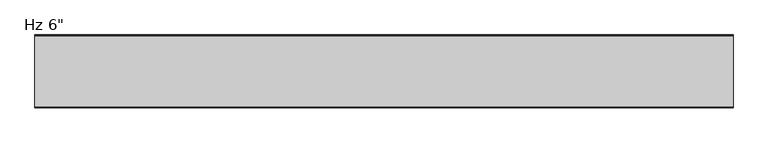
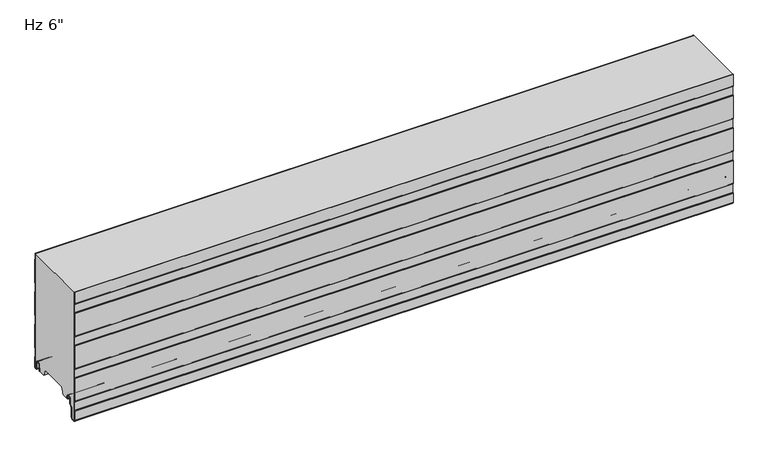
"""IFC4 building model written with IfcOpenShell, lengths in millimetres: plate geometry."""

from ifc_helpers import new_model, si_unit, point, frame, frame_2d, origin, place, context, project, spatial, polyline, circle_curve, trimmed, segment, composite_curve, outline, extrude, source, transform, mapped, element, save
from ifc_brep_helpers import plane_surface, cylinder_surface, revolved_surface, advanced_brep


def plate_b218fc5a(model_context):
    return source(origin(), model_context, "Body", "SolidModel", [
        extrude(outline(composite_curve([segment(trimmed(circle_curve(frame_2d((-2.3985037, -0.4487243)), 2.3999705), [point((-3.12e-05, -0.3639402))], [point((-2.3985037, -2.8486949))], False, "CARTESIAN"), True, "CONTINUOUS"), segment(polyline([(-2.3985037, -2.8486949), (-3.9516205, -2.8486949)]), True, "CONTINUOUS"), segment(trimmed(circle_curve(frame_2d((-3.9516205, 0.3613604)), 3.2100553), [point((-3.9516205, -2.8486949))], [point((-7.1616758, 0.3613604))], False, "CARTESIAN"), True, "CONTINUOUS"), segment(polyline([(-7.1616758, 0.3613604), (-7.1616758, 13.8905885)]), True, "CONTINUOUS"), segment(trimmed(circle_curve(frame_2d((-9.8816619, 13.8905885)), 2.7199861), [point((-7.1616758, 13.8905885))], [point((-9.8816619, 16.6105746))], True, "CARTESIAN"), True, "CONTINUOUS"), segment(polyline([(-9.8816619, 16.6105746), (-13.5282598, 16.6105746)]), True, "CONTINUOUS"), segment(trimmed(circle_curve(frame_2d((-13.5282598, 13.8905782)), 2.7199964), [point((-13.5282598, 16.6105746))], [point((-16.2482561, 13.8905782))], True, "CARTESIAN"), True, "CONTINUOUS"), segment(polyline([(-16.2482561, 13.8905782), (-16.2482561, 1.189897)]), True, "CONTINUOUS"), segment(trimmed(circle_curve(frame_2d((-17.7722572, 1.189897)), 1.524001), [point((-16.2482561, 1.189897))], [point((-19.2731052, 1.454537))], False, "CARTESIAN"), True, "CONTINUOUS"), segment(polyline([(-19.2731052, 1.454537), (-18.1704393, 7.7080661), (-17.2482561, 7.5454603), (-17.2482561, 13.8905782)]), True, "CONTINUOUS"), segment(trimmed(circle_curve(frame_2d((-13.5282598, 13.8905782)), 3.7199964), [point((-17.2482561, 13.8905782))], [point((-13.5282598, 17.6105746))], False, "CARTESIAN"), True, "CONTINUOUS"), segment(polyline([(-13.5282598, 17.6105746), (-9.8816619, 17.6105746)]), True, "CONTINUOUS"), segment(trimmed(circle_curve(frame_2d((-9.8816619, 13.8905885)), 3.7199861), [point((-9.8816619, 17.6105746))], [point((-6.1616758, 13.8905885))], False, "CARTESIAN"), True, "CONTINUOUS"), segment(polyline([(-6.1616758, 13.8905885), (-6.1616758, 0.3613604)]), True, "CONTINUOUS"), segment(trimmed(circle_curve(frame_2d((-3.9516205, 0.3613604)), 2.2100553), [point((-6.1616758, 0.3613604))], [point((-3.9516205, -1.8486949))], True, "CARTESIAN"), True, "CONTINUOUS"), segment(polyline([(-3.9516205, -1.8486949), (-2.3985037, -1.8486949)]), True, "CONTINUOUS"), segment(trimmed(circle_curve(frame_2d((-2.3985037, -0.4487243)), 1.3999705), [point((-2.3985037, -1.8486949))], [point((-1.0000312, -0.3839769))], True, "CARTESIAN"), True, "CONTINUOUS"), segment(polyline([(-1.0000312, -0.3839769), (-1.0000312, 22.2866086), (-2.2002516, 23.486829), (-2.2002516, 43.1222888), (-1.0000209, 44.3225195), (-1.0000209, 98.4864459), (-2.2002516, 99.6866766), (-2.2002516, 119.3221364), (-1.0000209, 120.5223671), (-1.0000209, 174.6698551), (-2.2002516, 175.8700858), (-2.2002516, 195.5055456), (-1.0000209, 196.7057763), (-1.0000209, 250.8532643), (-2.2002516, 252.0534951), (-2.2002516, 266.4), (-1.2002516, 266.4), (-1.2002516, 252.4677086), (-2.09e-05, 251.2674779), (-2.09e-05, 196.2915628), (-1.2002516, 195.091332), (-1.2002516, 176.2842994), (-2.09e-05, 175.0840687), (-2.09e-05, 120.1081535), (-1.2002516, 118.9079228), (-1.2002516, 100.1008902), (-2.09e-05, 98.9006594), (-2.09e-05, 43.9083059), (-1.2002516, 42.7080752), (-1.2002516, 23.9010426), (-3.12e-05, 22.7008222), (-3.12e-05, -0.3639402)]), True, "CONTINUOUS")], self_intersect=False)), frame((-730.0, 0.0, 0.0), z_axis=(1.0, 0.0, 0.0), x_axis=(0.0, 1.0, 0.0)), (0.0, 0.0, 1.0), 1460.0),
        extrude(outline(composite_curve([segment(trimmed(circle_curve(frame_2d((-124.105791, 0.8654988)), 1.2), [point((-122.905792, 0.8670134))], [point((-125.3042756, 0.8052116))], False, "CARTESIAN"), True, "CONTINUOUS"), segment(polyline([(-125.3042756, 0.8052116), (-125.3042756, 7.3245305)]), True, "CONTINUOUS"), segment(trimmed(circle_curve(frame_2d((-127.6542755, 7.3245305)), 2.3499999), [point((-125.3042756, 7.3245305))], [point((-127.6542755, 9.6745305))], True, "CARTESIAN"), True, "CONTINUOUS"), segment(polyline([(-127.6542755, 9.6745305), (-132.0542753, 9.6745305)]), True, "CONTINUOUS"), segment(trimmed(circle_curve(frame_2d((-132.0542753, 7.3245305)), 2.3499999), [point((-132.0542753, 9.6745305))], [point((-134.4042752, 7.3245305))], True, "CARTESIAN"), True, "CONTINUOUS"), segment(polyline([(-134.4042752, 7.3245305), (-134.4042752, -4.4863817)]), True, "CONTINUOUS"), segment(trimmed(circle_curve(frame_2d((-137.1042752, -4.4863817)), 2.7), [point((-134.4042752, -4.4863817))], [point((-135.1950869, -6.39557))], False, "CARTESIAN"), True, "CONTINUOUS"), segment(polyline([(-135.1950869, -6.39557), (-139.9356458, -11.1361289)]), True, "CONTINUOUS"), segment(trimmed(circle_curve(frame_2d((-138.804275, -12.2674998)), 1.6), [point((-139.9356458, -11.1361289))], [point((-140.404275, -12.2674998))], True, "CARTESIAN"), True, "CONTINUOUS"), segment(polyline([(-140.404275, -12.2674998), (-140.404275, -33.274257)]), True, "CONTINUOUS"), segment(trimmed(circle_curve(frame_2d((-144.104275, -33.274257)), 3.7), [point((-140.404275, -33.274257))], [point((-143.7815079, -36.960152))], False, "CARTESIAN"), True, "CONTINUOUS"), segment(polyline([(-143.7815079, -36.960152), (-148.5284964, -37.3758371)]), True, "CONTINUOUS"), segment(trimmed(circle_curve(frame_2d((-148.8391075, -33.8287598)), 3.5606512), [point((-148.5284964, -37.3758371))], [point((-152.3997587, -33.8287598))], False, "CARTESIAN"), True, "CONTINUOUS"), segment(polyline([(-152.3997587, -33.8287598), (-152.3997587, -12.0182355)]), True, "CONTINUOUS"), segment(trimmed(circle_curve(frame_2d((-150.9998926, -12.0182355)), 1.3998661), [point((-152.3997587, -12.0182355))], [point((-151.9325164, -10.9742825))], False, "CARTESIAN"), True, "CONTINUOUS"), segment(polyline([(-151.9325164, -10.9742825), (-151.1997902, -10.2415563), (-151.1997902, 8.6494291), (-151.9327558, 9.3823947)]), True, "CONTINUOUS"), segment(trimmed(circle_curve(frame_2d((-151.0000446, 10.4264455)), 1.3999972), [point((-151.9327558, 9.3823947))], [point((-152.4000209, 10.4340987))], False, "CARTESIAN"), True, "CONTINUOUS"), segment(polyline([(-152.4000209, 10.4340987), (-152.4000209, 64.1816121)]), True, "CONTINUOUS"), segment(trimmed(circle_curve(frame_2d((-151.0000237, 64.1816121)), 1.3999972), [point((-152.4000209, 64.1816121))], [point((-151.9327348, 65.2256628))], False, "CARTESIAN"), True, "CONTINUOUS"), segment(polyline([(-151.9327348, 65.2256628), (-151.1997902, 65.9586075), (-151.1997902, 84.8492767), (-151.9327558, 85.5822423)]), True, "CONTINUOUS"), segment(trimmed(circle_curve(frame_2d((-151.0000446, 86.6262931)), 1.3999972), [point((-151.9327558, 85.5822423))], [point((-152.4000209, 86.6339463))], False, "CARTESIAN"), True, "CONTINUOUS"), segment(polyline([(-152.4000209, 86.6339463), (-152.4000209, 140.3814597)]), True, "CONTINUOUS"), segment(trimmed(circle_curve(frame_2d((-151.0000237, 140.3814597)), 1.3999972), [point((-152.4000209, 140.3814597))], [point((-151.9327348, 141.4255104))], False, "CARTESIAN"), True, "CONTINUOUS"), segment(polyline([(-151.9327348, 141.4255104), (-151.1997902, 142.1584551), (-151.1997902, 161.0491243), (-151.9327558, 161.7820899)]), True, "CONTINUOUS"), segment(trimmed(circle_curve(frame_2d((-151.0000446, 162.8261407)), 1.3999972), [point((-151.9327558, 161.7820899))], [point((-152.4000209, 162.8337939))], False, "CARTESIAN"), True, "CONTINUOUS"), segment(polyline([(-152.4000209, 162.8337939), (-152.4000209, 216.5813073)]), True, "CONTINUOUS"), segment(trimmed(circle_curve(frame_2d((-151.0000237, 216.5813073)), 1.3999972), [point((-152.4000209, 216.5813073))], [point((-151.9327348, 217.625358))], False, "CARTESIAN"), True, "CONTINUOUS"), segment(polyline([(-151.9327348, 217.625358), (-151.1997902, 218.3583027), (-151.1997902, 237.2489719), (-151.9327558, 237.9819375)]), True, "CONTINUOUS"), segment(trimmed(circle_curve(frame_2d((-151.0000446, 239.0259883)), 1.3999972), [point((-151.9327558, 237.9819375))], [point((-152.4000209, 239.0336415))], False, "CARTESIAN"), True, "CONTINUOUS"), segment(polyline([(-152.4000209, 239.0336415), (-152.4000209, 266.4), (-151.4000209, 266.4), (-151.4000209, 238.8638905), (-150.1997902, 237.6636597), (-150.1997902, 217.9442472), (-151.4000209, 216.7440165), (-151.4000209, 162.6638848), (-150.1997902, 161.4636541), (-150.1997902, 141.7442416), (-151.4000209, 140.5440108), (-151.4000209, 86.4638791), (-150.1997902, 85.2636484), (-150.1997902, 65.5442359), (-151.4000209, 64.3440052), (-151.4000209, 10.2638734), (-150.1997902, 9.0636427), (-150.1997902, -10.6557698), (-151.3997587, -11.8557384), (-151.3997587, -33.8287598)]), True, "CONTINUOUS"), segment(trimmed(circle_curve(frame_2d((-148.8391075, -33.8287598)), 2.5606512), [point((-151.3997587, -33.8287598))], [point((-148.6157308, -36.3796493))], True, "CARTESIAN"), True, "CONTINUOUS"), segment(polyline([(-148.6157308, -36.3796493), (-143.8687422, -35.9639641)]), True, "CONTINUOUS"), segment(trimmed(circle_curve(frame_2d((-144.104275, -33.274257)), 2.7), [point((-143.8687422, -35.9639641))], [point((-141.404275, -33.274257))], True, "CARTESIAN"), True, "CONTINUOUS"), segment(polyline([(-141.404275, -33.274257), (-141.404275, -12.2674998)]), True, "CONTINUOUS"), segment(trimmed(circle_curve(frame_2d((-138.804275, -12.2674998)), 2.6), [point((-141.404275, -12.2674998))], [point((-140.6427526, -10.4290221))], False, "CARTESIAN"), True, "CONTINUOUS"), segment(polyline([(-140.6427526, -10.4290221), (-135.9021937, -5.6884632)]), True, "CONTINUOUS"), segment(trimmed(circle_curve(frame_2d((-137.1042752, -4.4863817)), 1.7), [point((-135.9021937, -5.6884632))], [point((-135.4042752, -4.4863817))], True, "CARTESIAN"), True, "CONTINUOUS"), segment(polyline([(-135.4042752, -4.4863817), (-135.4042752, 7.3245305)]), True, "CONTINUOUS"), segment(trimmed(circle_curve(frame_2d((-132.0542753, 7.3245305)), 3.3499999), [point((-135.4042752, 7.3245305))], [point((-132.0542753, 10.6745305))], False, "CARTESIAN"), True, "CONTINUOUS"), segment(polyline([(-132.0542753, 10.6745305), (-127.6542755, 10.6745305)]), True, "CONTINUOUS"), segment(trimmed(circle_curve(frame_2d((-127.6542755, 7.3245305)), 3.3499999), [point((-127.6542755, 10.6745305))], [point((-124.3042756, 7.3245305))], False, "CARTESIAN"), True, "CONTINUOUS"), segment(polyline([(-124.3042756, 7.3245305), (-124.3042756, 4.6254142), (-122.905792, 4.6254142), (-122.905792, 0.8670134)]), True, "CONTINUOUS")], self_intersect=False)), frame((-730.0, 0.0, 0.0), z_axis=(1.0, 0.0, 0.0), x_axis=(0.0, 1.0, 0.0)), (0.0, 0.0, 1.0), 1460.0),
        advanced_brep(
        [(-730.0, -124.3042756, 7.3245305), (-730.0, -127.6542755, 10.6745305), (-730.0, -132.0542753, 10.6745305), (-730.0, -135.4042752, 7.3245305), (-730.0, -135.4042752, -4.4863817), (-730.0, -135.9021937, -5.6884632), (-730.0, -140.6427526, -10.4290221), (-730.0, -141.404275, -12.2674998), (-730.0, -141.404275, -33.274257), (-730.0, -143.8687422, -35.9639641), (-730.0, -148.6157308, -36.3796493), (-730.0, -151.3997587, -33.8287598), (-730.0, -151.3997587, -11.8557384), (-730.0, -150.1997902, -10.6557698), (-730.0, -150.1997902, 9.0636427), (-730.0, -151.4000209, 10.2638734), (-730.0, -151.4000209, 64.3440052), (-730.0, -150.1997902, 65.5442359), (-730.0, -150.1997902, 85.2636484), (-730.0, -151.4000209, 86.4638791), (-730.0, -151.4000209, 140.5440108), (-730.0, -150.1997902, 141.7442416), (-730.0, -150.1997902, 161.4636541), (-730.0, -151.4000209, 162.6638848), (-730.0, -151.4000209, 216.7440165), (-730.0, -150.1997902, 217.9442472), (-730.0, -150.1997902, 237.6636597), (-730.0, -151.4000209, 238.8638905), (-730.0, -151.4000209, 266.4), (-730.0, -2.2002516, 266.4), (-730.0, -2.2002516, 252.0534951), (-730.0, -1.0000209, 250.8532643), (-730.0, -1.0000209, 196.7057763), (-730.0, -2.2002516, 195.5055456), (-730.0, -2.2002516, 175.8700858), (-730.0, -1.0000209, 174.6698551), (-730.0, -1.0000209, 120.5223671), (-730.0, -2.2002516, 119.3221364), (-730.0, -2.2002516, 99.6866766), (-730.0, -1.0000209, 98.4864459), (-730.0, -1.0000209, 44.3225195), (-730.0, -2.2002516, 43.1222888), (-730.0, -2.2002516, 23.486829), (-730.0, -1.0000312, 22.2866086), (-730.0, -1.0000312, -0.3839769), (-730.0, -2.3985037, -1.8486949), (-730.0, -3.9516205, -1.8486949), (-730.0, -6.1616758, 0.3613604), (-730.0, -6.1616758, 13.8905885), (-730.0, -9.8816619, 17.6105746), (-730.0, -13.5282598, 17.6105746), (-730.0, -17.2482561, 13.8905782), (-730.0, -17.2482561, 7.5454603), (-730.0, -18.1704393, 7.7080661), (-730.0, -19.2731052, 1.454537), (-730.0, -18.724478, 0.0), (-730.0, -33.5050787, 0.0), (-730.0, -39.1301227, 14.9979533), (-730.0, -102.5686274, 14.9979533), (-730.0, -108.1925929, 0.0), (-730.0, -123.27458, 0.0), (-730.0, -122.905792, 0.8670134), (-730.0, -122.905792, 4.6254142), (-730.0, -124.3042756, 4.6254142), (730.0, -124.3042756, 7.3245305), (730.0, -124.3042756, 4.6254142), (730.0, -122.905792, 4.6254142), (730.0, -122.905792, 0.8670134), (730.0, -123.27458, 0.0), (730.0, -108.1925929, 0.0), (730.0, -102.5683653, 14.9979533), (730.0, -39.1301227, 14.9979533), (730.0, -33.5050787, 0.0), (730.0, -18.724478, 0.0), (730.0, -19.2731052, 1.454537), (730.0, -18.1704393, 7.7080661), (730.0, -17.2482561, 7.5454603), (730.0, -17.2482561, 13.8905782), (730.0, -13.5282598, 17.6105746), (730.0, -9.8816619, 17.6105746), (730.0, -6.1616758, 13.8905885), (730.0, -6.1616758, 0.3613604), (730.0, -3.9516205, -1.8486949), (730.0, -2.3985037, -1.8486949), (730.0, -1.0000312, -0.3839769), (730.0, -1.0000312, 22.2866086), (730.0, -2.2002516, 23.486829), (730.0, -2.2002516, 43.1222888), (730.0, -1.0000209, 44.3225195), (730.0, -1.0000209, 98.4864459), (730.0, -2.2002516, 99.6866766), (730.0, -2.2002516, 119.3221364), (730.0, -1.0000209, 120.5223671), (730.0, -1.0000209, 174.6698551), (730.0, -2.2002516, 175.8700858), (730.0, -2.2002516, 195.5055456), (730.0, -1.0000209, 196.7057763), (730.0, -1.0000209, 250.8532643), (730.0, -2.2002516, 252.0534951), (730.0, -2.2002516, 266.4), (730.0, -151.4000209, 266.4), (730.0, -151.4000209, 238.8638905), (730.0, -150.1997902, 237.6636597), (730.0, -150.1997902, 217.9442472), (730.0, -151.4000209, 216.7440165), (730.0, -151.4000209, 162.6638848), (730.0, -150.1997902, 161.4636541), (730.0, -150.1997902, 141.7442416), (730.0, -151.4000209, 140.5440108), (730.0, -151.4000209, 86.4638791), (730.0, -150.1997902, 85.2636484), (730.0, -150.1997902, 65.5442359), (730.0, -151.4000209, 64.3440052), (730.0, -151.4000209, 10.2638734), (730.0, -150.1997902, 9.0636427), (730.0, -150.1997902, -10.6557698), (730.0, -151.3997587, -11.8557384), (730.0, -151.3997587, -33.8287598), (730.0, -148.6157308, -36.3796493), (730.0, -143.8687422, -35.9639641), (730.0, -141.404275, -33.274257), (730.0, -141.404275, -12.2674998), (730.0, -140.6427526, -10.4290221), (730.0, -135.9021937, -5.6884632), (730.0, -135.4042752, -4.4863817), (730.0, -135.4042752, 7.3245305), (730.0, -132.0542753, 10.6745305), (730.0, -127.6542755, 10.6745305)],
        [
            (0, 1, circle_curve(frame((-730.0, -127.6542755, 7.3245305), z_axis=(1.0, 0.0, 0.0), x_axis=(0.0, 0.0, -1.0)), 3.3499999)),
            (1, 2),
            (2, 3, circle_curve(frame((-730.0, -132.0542753, 7.3245305), z_axis=(1.0, 0.0, 0.0), x_axis=(0.0, 0.0, -1.0)), 3.3499999)),
            (3, 4),
            (4, 5, circle_curve(frame((-730.0, -137.1042752, -4.4863817), z_axis=(-1.0, 0.0, 0.0), x_axis=(0.0, 0.0, -1.0)), 1.7)),
            (5, 6),
            (6, 7, circle_curve(frame((-730.0, -138.804275, -12.2674998), z_axis=(1.0, 0.0, 0.0), x_axis=(0.0, 0.0, -1.0)), 2.6)),
            (7, 8),
            (8, 9, circle_curve(frame((-730.0, -144.104275, -33.274257), z_axis=(-1.0, 0.0, 0.0), x_axis=(0.0, 0.0, -1.0)), 2.7)),
            (9, 10),
            (10, 11, circle_curve(frame((-730.0, -148.8391075, -33.8287598), z_axis=(-1.0, 0.0, 0.0), x_axis=(0.0, 0.0, -1.0)), 2.5606512)),
            (11, 12),
            (12, 13),
            (13, 14),
            (14, 15),
            (15, 16),
            (16, 17),
            (17, 18),
            (18, 19),
            (19, 20),
            (20, 21),
            (21, 22),
            (22, 23),
            (23, 24),
            (24, 25),
            (25, 26),
            (26, 27),
            (27, 28),
            (28, 29),
            (29, 30),
            (30, 31),
            (31, 32),
            (32, 33),
            (33, 34),
            (34, 35),
            (35, 36),
            (36, 37),
            (37, 38),
            (38, 39),
            (39, 40),
            (40, 41),
            (41, 42),
            (42, 43),
            (43, 44),
            (44, 45, circle_curve(frame((-730.0, -2.3985037, -0.4487243), z_axis=(-1.0, 0.0, 0.0), x_axis=(0.0, 0.0, -1.0)), 1.3999705)),
            (45, 46),
            (46, 47, circle_curve(frame((-730.0, -3.9516205, 0.3613604), z_axis=(-1.0, 0.0, 0.0), x_axis=(0.0, 0.0, -1.0)), 2.2100553)),
            (47, 48),
            (48, 49, circle_curve(frame((-730.0, -9.8816619, 13.8905885), z_axis=(1.0, 0.0, 0.0), x_axis=(0.0, 0.0, -1.0)), 3.7199861)),
            (49, 50),
            (50, 51, circle_curve(frame((-730.0, -13.5282598, 13.8905782), z_axis=(1.0, 0.0, 0.0), x_axis=(0.0, 0.0, -1.0)), 3.7199964)),
            (51, 52),
            (52, 53),
            (53, 54),
            (54, 55, circle_curve(frame((-730.0, -17.7722572, 1.189897), z_axis=(1.0, 0.0, 0.0), x_axis=(0.0, 0.0, -1.0)), 1.524001)),
            (55, 56),
            (56, 57),
            (57, 58),
            (58, 59),
            (59, 60),
            (60, 61, circle_curve(frame((-730.0, -124.105791, 0.8654988), z_axis=(1.0, 0.0, 0.0), x_axis=(0.0, 0.0, -1.0)), 1.2)),
            (61, 62),
            (62, 63),
            (63, 0),
            (64, 65),
            (65, 66),
            (66, 67),
            (67, 68, circle_curve(frame((730.0, -124.105791, 0.8654988), z_axis=(-1.0, 0.0, 0.0), x_axis=(0.0, 0.0, -1.0)), 1.2)),
            (68, 69),
            (69, 70),
            (70, 71),
            (71, 72),
            (72, 73),
            (73, 74, circle_curve(frame((730.0, -17.7722572, 1.189897), z_axis=(-1.0, 0.0, 0.0), x_axis=(0.0, 0.0, -1.0)), 1.524001)),
            (74, 75),
            (75, 76),
            (76, 77),
            (77, 78, circle_curve(frame((730.0, -13.5282598, 13.8905782), z_axis=(-1.0, 0.0, 0.0), x_axis=(0.0, 0.0, -1.0)), 3.7199964)),
            (78, 79),
            (79, 80, circle_curve(frame((730.0, -9.8816619, 13.8905885), z_axis=(-1.0, 0.0, 0.0), x_axis=(0.0, 0.0, -1.0)), 3.7199861)),
            (80, 81),
            (81, 82, circle_curve(frame((730.0, -3.9516205, 0.3613604), z_axis=(1.0, 0.0, 0.0), x_axis=(0.0, 0.0, -1.0)), 2.2100553)),
            (82, 83),
            (83, 84, circle_curve(frame((730.0, -2.3985037, -0.4487243), z_axis=(1.0, 0.0, 0.0), x_axis=(0.0, 0.0, -1.0)), 1.3999705)),
            (84, 85),
            (85, 86),
            (86, 87),
            (87, 88),
            (88, 89),
            (89, 90),
            (90, 91),
            (91, 92),
            (92, 93),
            (93, 94),
            (94, 95),
            (95, 96),
            (96, 97),
            (97, 98),
            (98, 99),
            (99, 100),
            (100, 101),
            (101, 102),
            (102, 103),
            (103, 104),
            (104, 105),
            (105, 106),
            (106, 107),
            (107, 108),
            (108, 109),
            (109, 110),
            (110, 111),
            (111, 112),
            (112, 113),
            (113, 114),
            (114, 115),
            (115, 116),
            (116, 117),
            (117, 118, circle_curve(frame((730.0, -148.8391075, -33.8287598), z_axis=(1.0, 0.0, 0.0), x_axis=(0.0, 0.0, -1.0)), 2.5606512)),
            (118, 119),
            (119, 120, circle_curve(frame((730.0, -144.104275, -33.274257), z_axis=(1.0, 0.0, 0.0), x_axis=(0.0, 0.0, -1.0)), 2.7)),
            (120, 121),
            (121, 122, circle_curve(frame((730.0, -138.804275, -12.2674998), z_axis=(-1.0, 0.0, 0.0), x_axis=(0.0, 0.0, -1.0)), 2.6)),
            (122, 123),
            (123, 124, circle_curve(frame((730.0, -137.1042752, -4.4863817), z_axis=(1.0, 0.0, 0.0), x_axis=(0.0, 0.0, -1.0)), 1.7)),
            (124, 125),
            (125, 126, circle_curve(frame((730.0, -132.0542753, 7.3245305), z_axis=(-1.0, 0.0, 0.0), x_axis=(0.0, 0.0, -1.0)), 3.3499999)),
            (126, 127),
            (127, 64, circle_curve(frame((730.0, -127.6542755, 7.3245305), z_axis=(-1.0, 0.0, 0.0), x_axis=(0.0, 0.0, -1.0)), 3.3499999)),
            (48, 80),
            (79, 49),
            (47, 81),
            (46, 82),
            (45, 83),
            (44, 84),
            (43, 85),
            (42, 86),
            (41, 87),
            (40, 88),
            (39, 89),
            (38, 90),
            (37, 91),
            (36, 92),
            (35, 93),
            (34, 94),
            (33, 95),
            (32, 96),
            (31, 97),
            (30, 98),
            (29, 99),
            (56, 72),
            (71, 57),
            (55, 73),
            (54, 74),
            (53, 75),
            (52, 76),
            (51, 77),
            (50, 78),
            (70, 58),
            (0, 64),
            (127, 1),
            (63, 65),
            (62, 66),
            (61, 67),
            (60, 68),
            (10, 118),
            (117, 11),
            (9, 119),
            (8, 120),
            (7, 121),
            (6, 122),
            (5, 123),
            (4, 124),
            (3, 125),
            (2, 126),
            (59, 69),
            (116, 12),
            (13, 115),
            (114, 14),
            (113, 15),
            (112, 16),
            (17, 111),
            (110, 18),
            (109, 19),
            (108, 20),
            (21, 107),
            (106, 22),
            (105, 23),
            (104, 24),
            (25, 103),
            (102, 26),
            (101, 27),
            (100, 28),
        ],
        [
            plane_surface(frame((-730.0, -151.4000209, 532.8637656), z_axis=(-1.0, 0.0, 0.0), x_axis=(0.0, -1.0, 0.0))),
            plane_surface(frame((730.0, -151.4000209, 532.8637656), z_axis=(1.0, 0.0, 0.0), x_axis=(0.0, -1.0, 0.0))),
            revolved_surface(polyline([(730.0, -9.8816619, 10.1706024), (-730.0, -9.8816619, 10.1706024)]), (-730.0, -9.8816619, 13.8905885), (1.0, 0.0, 0.0)),
            plane_surface(frame((-730.0, -6.1616758, 13.8905885), z_axis=(0.0, -1.0, 0.0), x_axis=(1.0, 0.0, 0.0))),
            cylinder_surface(frame((-730.0, -3.9516205, 0.3613604), z_axis=(-1.0, 0.0, 0.0), x_axis=(0.0, 0.0, -1.0)), 2.2100553),
            plane_surface(frame((-730.0, -3.9516205, -1.8486949), z_axis=(0.0, 0.0, -1.0), x_axis=(1.0, 0.0, 0.0))),
            cylinder_surface(frame((-730.0, -2.3985037, -0.4487243), z_axis=(-1.0, 0.0, 0.0), x_axis=(0.0, 0.0, -1.0)), 1.3999705),
            plane_surface(frame((-730.0, -1.0000312, -0.3839769), z_axis=(0.0, 1.0, 0.0), x_axis=(1.0, 0.0, 0.0))),
            plane_surface(frame((-730.0, -1.0000312, 22.2866086), z_axis=(0.0, 0.7071067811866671, 0.7071067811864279), x_axis=(1.0, 0.0, 0.0))),
            plane_surface(frame((-730.0, -2.2002516, 33.3045589), z_axis=(0.0, 1.0, 0.0), x_axis=(1.0, 0.0, 0.0))),
            plane_surface(frame((-730.0, -2.2002516, 43.1222888), z_axis=(0.0, 0.7071067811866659, -0.7071067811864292), x_axis=(1.0, 0.0, 0.0))),
            plane_surface(frame((-730.0, -1.0000209, 44.3225195), z_axis=(0.0, 1.0, 0.0), x_axis=(1.0, 0.0, 0.0))),
            plane_surface(frame((-730.0, -1.0000209, 98.4864459), z_axis=(0.0, 0.7071067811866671, 0.7071067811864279), x_axis=(1.0, 0.0, 0.0))),
            plane_surface(frame((-730.0, -2.2002516, 109.5044065), z_axis=(0.0, 1.0, 0.0), x_axis=(1.0, 0.0, 0.0))),
            plane_surface(frame((-730.0, -2.2002516, 119.3221364), z_axis=(0.0, 0.7071067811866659, -0.7071067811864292), x_axis=(1.0, 0.0, 0.0))),
            plane_surface(frame((-730.0, -1.0000209, 120.5223671), z_axis=(0.0, 1.0, 0.0), x_axis=(1.0, 0.0, 0.0))),
            plane_surface(frame((-730.0, -1.0000209, 174.6698551), z_axis=(0.0, 0.7071067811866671, 0.7071067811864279), x_axis=(1.0, 0.0, 0.0))),
            plane_surface(frame((-730.0, -2.2002516, 185.6878157), z_axis=(0.0, 1.0, 0.0), x_axis=(1.0, 0.0, 0.0))),
            plane_surface(frame((-730.0, -2.2002516, 195.5055456), z_axis=(0.0, 0.7071067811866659, -0.7071067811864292), x_axis=(1.0, 0.0, 0.0))),
            plane_surface(frame((-730.0, -1.0000209, 196.7057763), z_axis=(0.0, 1.0, 0.0), x_axis=(1.0, 0.0, 0.0))),
            plane_surface(frame((-730.0, -1.0000209, 250.8532643), z_axis=(0.0, 0.7071067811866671, 0.7071067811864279), x_axis=(1.0, 0.0, 0.0))),
            plane_surface(frame((-730.0, -2.2002516, 261.8712249), z_axis=(0.0, 1.0, 0.0), x_axis=(1.0, 0.0, 0.0))),
            plane_surface(frame((-730.0, -39.1301227, 14.9979533), z_axis=(0.0, -0.9363125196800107, -0.35116785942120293), x_axis=(1.0, 0.0, 0.0))),
            plane_surface(frame((-730.0, -33.5050787, 0.0), z_axis=(0.0, 0.0, -1.0), x_axis=(1.0, 0.0, 0.0))),
            revolved_surface(polyline([(730.0, -17.7722572, -0.33410399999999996), (-730.0, -17.7722572, -0.33410399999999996)]), (-730.0, -17.7722572, 1.189897), (1.0, 0.0, 0.0)),
            plane_surface(frame((-730.0, -19.2731052, 1.454537), z_axis=(0.0, 0.9848077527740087, -0.1736481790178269), x_axis=(1.0, 0.0, 0.0))),
            plane_surface(frame((-730.0, -18.1704393, 7.7080661), z_axis=(0.0, -0.17364817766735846, -0.9848077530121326), x_axis=(1.0, 0.0, 0.0))),
            plane_surface(frame((-730.0, -17.2482561, 7.5454603), z_axis=(0.0, 1.0, 0.0), x_axis=(1.0, 0.0, 0.0))),
            revolved_surface(polyline([(730.0, -13.5282598, 10.1705818), (-730.0, -13.5282598, 10.1705818)]), (-730.0, -13.5282598, 13.8905782), (1.0, 0.0, 0.0)),
            plane_surface(frame((-730.0, -13.5282598, 17.6105746), z_axis=(0.0, 0.0, -1.0), x_axis=(1.0, 0.0, 0.0))),
            plane_surface(frame((730.0, -39.1301227, 14.9979533), z_axis=(0.0, 0.0, -1.0), x_axis=(-1.0, 0.0, 0.0))),
            revolved_surface(polyline([(730.0, -127.6542755, 3.9745306), (-730.0, -127.6542755, 3.9745306)]), (-730.0, -127.6542755, 7.3245305), (1.0, 0.0, 0.0)),
            plane_surface(frame((-730.0, -124.3042756, 7.3245305), z_axis=(0.0, -1.0, 0.0), x_axis=(1.0, 0.0, 0.0))),
            plane_surface(frame((-730.0, -124.3042756, 4.6254142), z_axis=(0.0, 0.0, -1.0), x_axis=(1.0, 0.0, 0.0))),
            plane_surface(frame((-730.0, -122.905792, 4.6254142), z_axis=(0.0, -1.0, 0.0), x_axis=(1.0, 0.0, 0.0))),
            revolved_surface(polyline([(730.0, -124.105791, -0.33450119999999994), (-730.0, -124.105791, -0.33450119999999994)]), (-730.0, -124.105791, 0.8654988), (1.0, 0.0, 0.0)),
            cylinder_surface(frame((-730.0, -148.8391075, -33.8287598), z_axis=(-1.0, 0.0, 0.0), x_axis=(0.0, 0.0, -1.0)), 2.5606512),
            plane_surface(frame((-730.0, -148.6157308, -36.3796493), z_axis=(0.0, 0.08723436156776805, -0.9961878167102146), x_axis=(1.0, 0.0, 0.0))),
            cylinder_surface(frame((-730.0, -144.104275, -33.274257), z_axis=(-1.0, 0.0, 0.0), x_axis=(0.0, 0.0, -1.0)), 2.7),
            plane_surface(frame((-730.0, -141.404275, -33.274257), z_axis=(0.0, 1.0, 0.0), x_axis=(1.0, 0.0, 0.0))),
            revolved_surface(polyline([(730.0, -138.804275, -14.8674998), (-730.0, -138.804275, -14.8674998)]), (-730.0, -138.804275, -12.2674998), (1.0, 0.0, 0.0)),
            plane_surface(frame((-730.0, -140.6427526, -10.4290221), z_axis=(0.0, 0.7071067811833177, -0.7071067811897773), x_axis=(1.0, 0.0, 0.0))),
            cylinder_surface(frame((-730.0, -137.1042752, -4.4863817), z_axis=(-1.0, 0.0, 0.0), x_axis=(0.0, 0.0, -1.0)), 1.7),
            plane_surface(frame((-730.0, -135.4042752, -4.4863817), z_axis=(0.0, 1.0, 0.0), x_axis=(1.0, 0.0, 0.0))),
            revolved_surface(polyline([(730.0, -132.0542753, 3.9745306), (-730.0, -132.0542753, 3.9745306)]), (-730.0, -132.0542753, 7.3245305), (1.0, 0.0, 0.0)),
            plane_surface(frame((-730.0, -132.0542753, 10.6745305), z_axis=(0.0, 0.0, -1.0), x_axis=(1.0, 0.0, 0.0))),
            plane_surface(frame((-730.0, -123.27458, 0.0), z_axis=(0.0, 0.0, -1.0), x_axis=(1.0, 0.0, 0.0))),
            plane_surface(frame((-730.0, -108.1925929, 0.0), z_axis=(0.0, 0.9363292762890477, -0.3511231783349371), x_axis=(1.0, 0.0, 0.0))),
            plane_surface(frame((-730.0, -151.3997587, -11.8557384), z_axis=(0.0, -1.0, 0.0), x_axis=(1.0, 0.0, 0.0))),
            plane_surface(frame((-730.0, -150.1997902, 9.0636427), z_axis=(0.0, -1.0, 0.0), x_axis=(1.0, 0.0, 0.0))),
            plane_surface(frame((-730.0, -150.1997902, -10.6557698), z_axis=(0.0, -0.7071067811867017, 0.7071067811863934), x_axis=(1.0, 0.0, 0.0))),
            plane_surface(frame((-730.0, -151.4000209, 10.2638734), z_axis=(0.0, -0.7071067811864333, -0.7071067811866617), x_axis=(1.0, 0.0, 0.0))),
            plane_surface(frame((-730.0, -151.4000209, 64.3440052), z_axis=(0.0, -1.0, 0.0), x_axis=(1.0, 0.0, 0.0))),
            plane_surface(frame((-730.0, -150.1997902, 85.2636484), z_axis=(0.0, -1.0, 0.0), x_axis=(1.0, 0.0, 0.0))),
            plane_surface(frame((-730.0, -150.1997902, 65.5442359), z_axis=(0.0, -0.7071067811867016, 0.7071067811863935), x_axis=(1.0, 0.0, 0.0))),
            plane_surface(frame((-730.0, -151.4000209, 86.4638791), z_axis=(0.0, -0.7071067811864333, -0.7071067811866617), x_axis=(1.0, 0.0, 0.0))),
            plane_surface(frame((-730.0, -151.4000209, 140.5440108), z_axis=(0.0, -1.0, 0.0), x_axis=(1.0, 0.0, 0.0))),
            plane_surface(frame((-730.0, -150.1997902, 161.4636541), z_axis=(0.0, -1.0, 0.0), x_axis=(1.0, 0.0, 0.0))),
            plane_surface(frame((-730.0, -150.1997902, 141.7442416), z_axis=(0.0, -0.7071067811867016, 0.7071067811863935), x_axis=(1.0, 0.0, 0.0))),
            plane_surface(frame((-730.0, -151.4000209, 162.6638848), z_axis=(0.0, -0.7071067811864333, -0.7071067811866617), x_axis=(1.0, 0.0, 0.0))),
            plane_surface(frame((-730.0, -151.4000209, 216.7440165), z_axis=(0.0, -1.0, 0.0), x_axis=(1.0, 0.0, 0.0))),
            plane_surface(frame((-730.0, -150.1997902, 237.6636597), z_axis=(0.0, -1.0, 0.0), x_axis=(1.0, 0.0, 0.0))),
            plane_surface(frame((-730.0, -150.1997902, 217.9442472), z_axis=(0.0, -0.7071067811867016, 0.7071067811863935), x_axis=(1.0, 0.0, 0.0))),
            plane_surface(frame((-730.0, -151.4000209, 238.8638905), z_axis=(0.0, -0.7071067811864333, -0.7071067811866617), x_axis=(1.0, 0.0, 0.0))),
            plane_surface(frame((-730.0, -151.4000209, 292.9440222), z_axis=(0.0, -1.0, 0.0), x_axis=(1.0, 0.0, 0.0))),
            plane_surface(frame((730.0, 11.9999791, 266.4), z_axis=(0.0, 0.0, 1.0), x_axis=(-1.0, 0.0, 0.0))),
        ],
        [
            (0, [[1, 2, 3, 4, 5, 6, 7, 8, 9, 10, 11, 12, 13, 14, 15, 16, 17, 18, 19, 20, 21, 22, 23, 24, 25, 26, 27, 28, 29, 30, 31, 32, 33, 34, 35, 36, 37, 38, 39, 40, 41, 42, 43, 44, 45, 46, 47, 48, 49, 50, 51, 52, 53, 54, 55, 56, 57, 58, 59, 60, 61, 62, 63, 64]]),
            (1, [[65, 66, 67, 68, 69, 70, 71, 72, 73, 74, 75, 76, 77, 78, 79, 80, 81, 82, 83, 84, 85, 86, 87, 88, 89, 90, 91, 92, 93, 94, 95, 96, 97, 98, 99, 100, 101, 102, 103, 104, 105, 106, 107, 108, 109, 110, 111, 112, 113, 114, 115, 116, 117, 118, 119, 120, 121, 122, 123, 124, 125, 126, 127, 128]]),
            (2, [[129, -80, 130, -49]]),
            (3, [[131, -81, -129, -48]]),
            (4, [[132, -82, -131, -47]]),
            (5, [[133, -83, -132, -46]]),
            (6, [[134, -84, -133, -45]]),
            (7, [[135, -85, -134, -44]]),
            (8, [[136, -86, -135, -43]]),
            (9, [[137, -87, -136, -42]]),
            (10, [[138, -88, -137, -41]]),
            (11, [[139, -89, -138, -40]]),
            (12, [[140, -90, -139, -39]]),
            (13, [[141, -91, -140, -38]]),
            (14, [[142, -92, -141, -37]]),
            (15, [[143, -93, -142, -36]]),
            (16, [[144, -94, -143, -35]]),
            (17, [[145, -95, -144, -34]]),
            (18, [[146, -96, -145, -33]]),
            (19, [[147, -97, -146, -32]]),
            (20, [[148, -98, -147, -31]]),
            (21, [[-30, 149, -99, -148]]),
            (22, [[150, -72, 151, -57]]),
            (23, [[152, -73, -150, -56]]),
            (24, [[153, -74, -152, -55]]),
            (25, [[154, -75, -153, -54]]),
            (26, [[155, -76, -154, -53]]),
            (27, [[156, -77, -155, -52]]),
            (28, [[157, -78, -156, -51]]),
            (29, [[-130, -79, -157, -50]]),
            (30, [[158, -58, -151, -71]]),
            (31, [[159, -128, 160, -1]]),
            (32, [[161, -65, -159, -64]]),
            (33, [[162, -66, -161, -63]]),
            (34, [[163, -67, -162, -62]]),
            (35, [[164, -68, -163, -61]]),
            (36, [[165, -118, 166, -11]]),
            (37, [[167, -119, -165, -10]]),
            (38, [[168, -120, -167, -9]]),
            (39, [[169, -121, -168, -8]]),
            (40, [[170, -122, -169, -7]]),
            (41, [[171, -123, -170, -6]]),
            (42, [[172, -124, -171, -5]]),
            (43, [[173, -125, -172, -4]]),
            (44, [[174, -126, -173, -3]]),
            (45, [[-160, -127, -174, -2]]),
            (46, [[175, -69, -164, -60]]),
            (47, [[-158, -70, -175, -59]]),
            (48, [[-166, -117, 176, -12]]),
            (49, [[177, -115, 178, -14]]),
            (50, [[-176, -116, -177, -13]]),
            (51, [[-178, -114, 179, -15]]),
            (52, [[-179, -113, 180, -16]]),
            (53, [[181, -111, 182, -18]]),
            (54, [[-180, -112, -181, -17]]),
            (55, [[-182, -110, 183, -19]]),
            (56, [[-183, -109, 184, -20]]),
            (57, [[185, -107, 186, -22]]),
            (58, [[-184, -108, -185, -21]]),
            (59, [[-186, -106, 187, -23]]),
            (60, [[-187, -105, 188, -24]]),
            (61, [[189, -103, 190, -26]]),
            (62, [[-188, -104, -189, -25]]),
            (63, [[-190, -102, 191, -27]]),
            (64, [[-101, 192, -28, -191]]),
            (65, [[-192, -100, -149, -29]]),
        ],
    ),
    ])


if __name__ == "__main__":
    model = new_model("IFC4")
    model_context = context("Model", 3, world=origin())
    ifc_project = project(units=[si_unit("LENGTHUNIT", "METRE", prefix="MILLI")], contexts=[model_context])
    site = spatial("IfcSite", under=ifc_project)
    building = spatial("IfcBuilding", under=site)
    placement = place(None, origin())
    plate_shape = plate_b218fc5a(model_context)
    element("IfcPlate", 1, ObjectType="KIP-42-KRHF-R19-CP-Hz-SL_SL : Hz 6\"", at=placement, inside=building, context=model_context, shape_type="MappedRepresentation", body=[
        mapped(plate_shape, transform((0.0, 0.0, 0.0), x_axis=(1.0, 0.0, 0.0), y_axis=(0.0, 1.0, 0.0), z_axis=(0.0, 0.0, 1.0))),
    ])
    save(model, "model.ifc")
